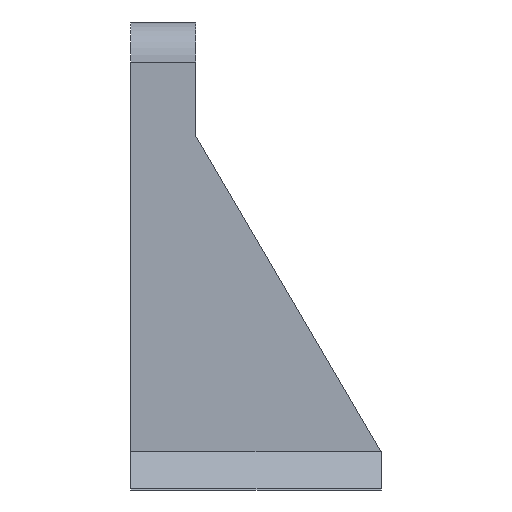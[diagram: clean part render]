
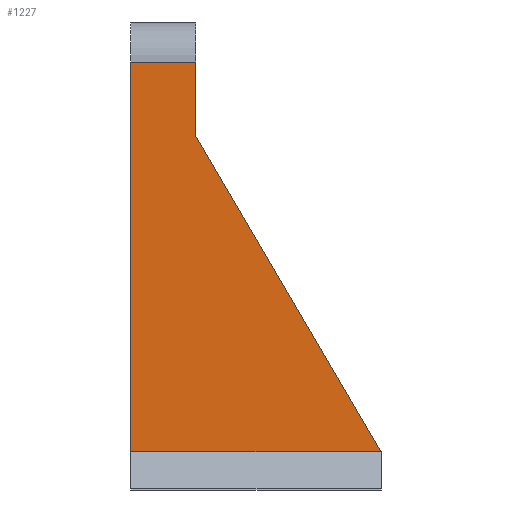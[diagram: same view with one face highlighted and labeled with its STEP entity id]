
A CAD part, left-side view. The second image highlights one B-rep face of the part: STEP entity #1227.
In plain terms, the highlighted planar face has unit normal (-1, 0, 0).
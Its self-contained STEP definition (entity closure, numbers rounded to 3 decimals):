
#335=CARTESIAN_POINT('',(-84.,-36.,2.));
#336=VERTEX_POINT('',#335);
#343=CARTESIAN_POINT('',(-84.,-36.,40.995));
#344=VERTEX_POINT('',#343);
#345=CARTESIAN_POINT('',(-84.,-36.,40.995));
#346=DIRECTION('',(0.,0.,-1.));
#347=VECTOR('',#346,38.995);
#348=LINE('',#345,#347);
#349=EDGE_CURVE('',#344,#336,#348,.T.);
#475=CARTESIAN_POINT('',(-84.,-42.5,40.995));
#476=VERTEX_POINT('',#475);
#484=CARTESIAN_POINT('',(-84.,-42.5,33.58));
#485=VERTEX_POINT('',#484);
#486=CARTESIAN_POINT('',(-84.,-42.5,40.995));
#487=DIRECTION('',(0.,0.,-1.));
#488=VECTOR('',#487,7.415);
#489=LINE('',#486,#488);
#490=EDGE_CURVE('',#476,#485,#489,.T.);
#1163=CARTESIAN_POINT('',(-84.,-60.986,2.024));
#1164=VERTEX_POINT('',#1163);
#1165=CARTESIAN_POINT('',(-84.,-42.5,33.58));
#1166=DIRECTION('',(0.,-0.505,-0.863));
#1167=VECTOR('',#1166,36.572);
#1168=LINE('',#1165,#1167);
#1169=EDGE_CURVE('',#485,#1164,#1168,.T.);
#1189=CARTESIAN_POINT('',(-84.,12.,0.));
#1190=DIRECTION('',(1.,0.,0.));
#1191=DIRECTION('',(0.,1.,0.));
#1192=AXIS2_PLACEMENT_3D('',#1189,#1190,#1191);
#1193=PLANE('',#1192);
#1194=CARTESIAN_POINT('',(-84.,-61.,2.01));
#1195=VERTEX_POINT('',#1194);
#1196=CARTESIAN_POINT('',(-84.,-61.,2.01));
#1197=DIRECTION('',(0.,0.707,0.707));
#1198=VECTOR('',#1197,0.02);
#1199=LINE('',#1196,#1198);
#1200=EDGE_CURVE('',#1195,#1164,#1199,.T.);
#1201=ORIENTED_EDGE('',*,*,#1200,.T.);
#1202=ORIENTED_EDGE('',*,*,#1169,.F.);
#1203=ORIENTED_EDGE('',*,*,#490,.F.);
#1204=CARTESIAN_POINT('',(-84.,-42.5,40.995));
#1205=DIRECTION('',(-0.,1.,-0.));
#1206=VECTOR('',#1205,6.5);
#1207=LINE('',#1204,#1206);
#1208=EDGE_CURVE('',#476,#344,#1207,.T.);
#1209=ORIENTED_EDGE('',*,*,#1208,.T.);
#1210=ORIENTED_EDGE('',*,*,#349,.T.);
#1211=CARTESIAN_POINT('',(-84.,-61.,2.));
#1212=VERTEX_POINT('',#1211);
#1213=CARTESIAN_POINT('',(-84.,-61.,2.));
#1214=DIRECTION('',(0.,1.,0.));
#1215=VECTOR('',#1214,25.);
#1216=LINE('',#1213,#1215);
#1217=EDGE_CURVE('',#1212,#336,#1216,.T.);
#1218=ORIENTED_EDGE('',*,*,#1217,.F.);
#1219=CARTESIAN_POINT('',(-84.,-61.,2.01));
#1220=DIRECTION('',(0.,0.,-1.));
#1221=VECTOR('',#1220,0.01);
#1222=LINE('',#1219,#1221);
#1223=EDGE_CURVE('',#1195,#1212,#1222,.T.);
#1224=ORIENTED_EDGE('',*,*,#1223,.F.);
#1225=EDGE_LOOP('',(#1201,#1202,#1203,#1209,#1210,#1218,#1224));
#1226=FACE_BOUND('',#1225,.T.);
#1227=ADVANCED_FACE('',(#1226),#1193,.F.);
